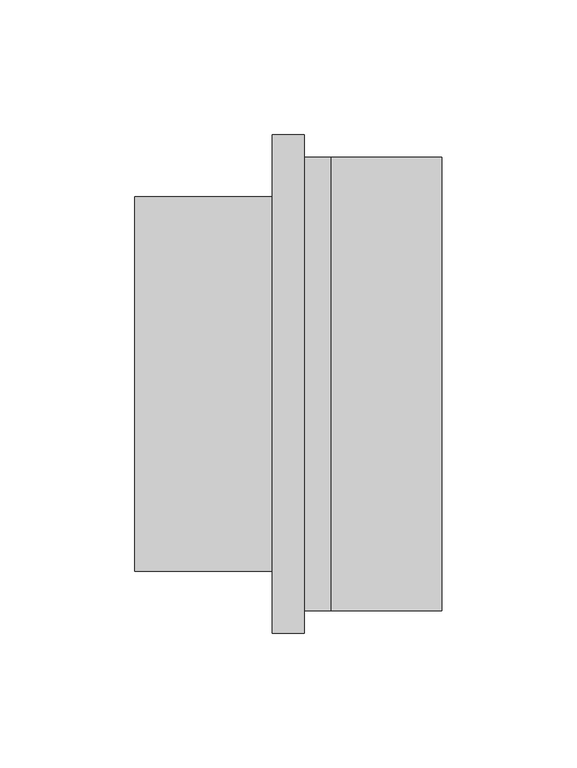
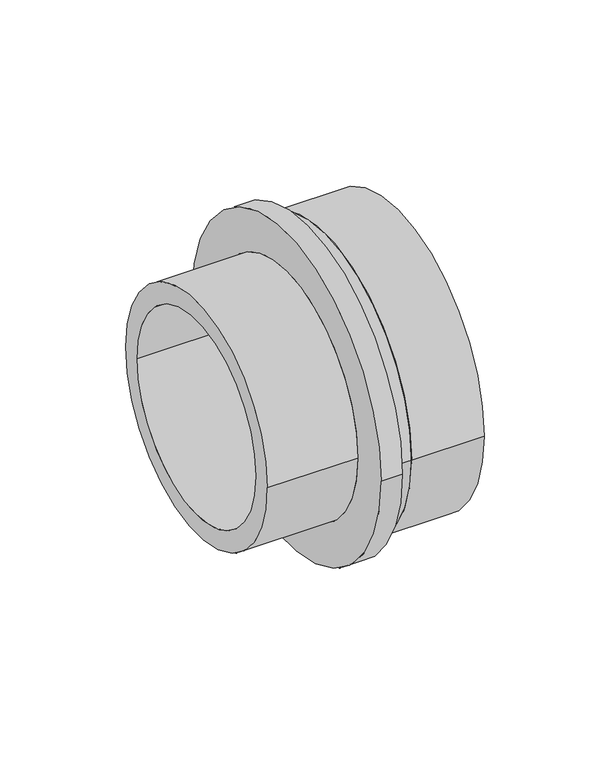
"""IFC4 building model written with IfcOpenShell, lengths in millimetres: pipe fitting geometry, Adapter with welding end : A welding RX."""

from ifc_helpers import new_model, si_unit, point, frame, origin, origin_2d, place, context, project, spatial, polyline, circle_curve, trimmed, segment, composite_curve, outline, extrude, source, transform, mapped, element, save
from ifc_brep_helpers import plane_surface, cylinder_surface, revolved_surface, advanced_brep


def pipe_fitting_d056a93d(model_context):
    return source(origin(), model_context, "Body", "SolidModel", [
        extrude(outline(composite_curve([segment(trimmed(circle_curve(origin_2d(), 84.2), [point((-84.2, 0.0))], [point((84.2, 0.0))], False, "CARTESIAN"), True, "CONTINUOUS"), segment(trimmed(circle_curve(origin_2d(), 84.2), [point((84.2, 0.0))], [point((-84.2, 0.0))], False, "CARTESIAN"), True, "CONTINUOUS")], self_intersect=False), holes=[composite_curve([segment(trimmed(circle_curve(origin_2d(), 80.05), [point((80.05, 0.0))], [point((-80.05, 0.0))], True, "CARTESIAN"), True, "CONTINUOUS"), segment(trimmed(circle_curve(origin_2d(), 80.05), [point((-80.05, 0.0))], [point((80.05, 0.0))], True, "CARTESIAN"), True, "CONTINUOUS")], self_intersect=False)]), frame((0.0, 0.0, 0.0), z_axis=(1.0, 0.0, 0.0), x_axis=(0.0, 1.0, 0.0)), (0.0, 0.0, 1.0), 41.0),
        advanced_brep(
        [(0.0, 84.2, 0.0), (0.0, -84.2, 0.0), (-10.0, -84.2, 0.0), (-10.0, 84.2, 0.0), (-10.0, 80.05, 0.0), (-10.0, -80.05, 0.0), (0.0, -80.05, 0.0), (0.0, 80.05, 0.0), (-73.0, 58.0, 0.0), (-73.0, -58.0, 0.0), (-10.0, -58.0, 0.0), (-10.0, 58.0, 0.0), (-22.0, 69.5, 0.0), (-22.0, -69.5, 0.0), (-73.0, -69.5, 0.0), (-73.0, 69.5, 0.0), (-10.0, 92.5, 0.0), (-10.0, -92.5, 0.0), (-22.0, -92.5, 0.0), (-22.0, 92.5, 0.0)],
        [
            (0, 1, circle_curve(frame((0.0, 0.0, 0.0), z_axis=(-1.0, 0.0, 0.0), x_axis=(0.0, -1.0, 0.0)), 84.2)),
            (1, 2),
            (2, 3, circle_curve(frame((-10.0, 0.0, 0.0), z_axis=(1.0, 0.0, 0.0), x_axis=(0.0, -1.0, 0.0)), 84.2)),
            (3, 0),
            (4, 5, circle_curve(frame((-10.0, 0.0, 0.0), z_axis=(-1.0, 0.0, 0.0), x_axis=(0.0, -1.0, 0.0)), 80.05)),
            (5, 6),
            (6, 7, circle_curve(frame((0.0, 0.0, 0.0), z_axis=(1.0, 0.0, 0.0), x_axis=(0.0, -1.0, 0.0)), 80.05)),
            (7, 4),
            (8, 9, circle_curve(frame((-73.0, 0.0, 0.0), z_axis=(-1.0, 0.0, 0.0), x_axis=(0.0, -1.0, 0.0)), 58.0)),
            (9, 10),
            (10, 11, circle_curve(frame((-10.0, 0.0, 0.0), z_axis=(1.0, 0.0, 0.0), x_axis=(0.0, -1.0, 0.0)), 58.0)),
            (11, 8),
            (12, 13, circle_curve(frame((-22.0, 0.0, 0.0), z_axis=(-1.0, 0.0, 0.0), x_axis=(0.0, -1.0, 0.0)), 69.5)),
            (13, 14),
            (14, 15, circle_curve(frame((-73.0, 0.0, 0.0), z_axis=(1.0, 0.0, 0.0), x_axis=(0.0, -1.0, 0.0)), 69.5)),
            (15, 12),
            (16, 17, circle_curve(frame((-10.0, 0.0, 0.0), z_axis=(-1.0, 0.0, 0.0), x_axis=(0.0, -1.0, 0.0)), 92.5)),
            (17, 18),
            (18, 19, circle_curve(frame((-22.0, 0.0, 0.0), z_axis=(1.0, 0.0, 0.0), x_axis=(0.0, -1.0, 0.0)), 92.5)),
            (19, 16),
            (16, 17, circle_curve(frame((-10.0, 0.0, 0.0), z_axis=(1.0, 0.0, 0.0), x_axis=(0.0, 1.0, 0.0)), 92.5)),
            (2, 3, circle_curve(frame((-10.0, 0.0, 0.0), z_axis=(-1.0, 0.0, 0.0), x_axis=(0.0, 1.0, 0.0)), 84.2)),
            (1, 0, circle_curve(frame((0.0, 0.0, 0.0), z_axis=(-1.0, 0.0, 0.0), x_axis=(0.0, 1.0, 0.0)), 84.2)),
            (6, 7, circle_curve(frame((0.0, 0.0, 0.0), z_axis=(-1.0, 0.0, 0.0), x_axis=(0.0, 1.0, 0.0)), 80.05)),
            (5, 4, circle_curve(frame((-10.0, 0.0, 0.0), z_axis=(-1.0, 0.0, 0.0), x_axis=(0.0, 1.0, 0.0)), 80.05)),
            (10, 11, circle_curve(frame((-10.0, 0.0, 0.0), z_axis=(-1.0, 0.0, 0.0), x_axis=(0.0, 1.0, 0.0)), 58.0)),
            (9, 8, circle_curve(frame((-73.0, 0.0, 0.0), z_axis=(-1.0, 0.0, 0.0), x_axis=(0.0, 1.0, 0.0)), 58.0)),
            (14, 15, circle_curve(frame((-73.0, 0.0, 0.0), z_axis=(-1.0, 0.0, 0.0), x_axis=(0.0, 1.0, 0.0)), 69.5)),
            (13, 12, circle_curve(frame((-22.0, 0.0, 0.0), z_axis=(-1.0, 0.0, 0.0), x_axis=(0.0, 1.0, 0.0)), 69.5)),
            (18, 19, circle_curve(frame((-22.0, 0.0, 0.0), z_axis=(-1.0, 0.0, 0.0), x_axis=(0.0, 1.0, 0.0)), 92.5)),
        ],
        [
            cylinder_surface(frame((0.0, 0.0, 0.0), z_axis=(1.0, 0.0, 0.0), x_axis=(0.0, -1.0, 0.0)), 84.2),
            revolved_surface(polyline([(0.0, -80.05, 0.0), (-10.0, -80.05, 0.0)]), (0.0, 0.0, 0.0), (1.0, 0.0, 0.0)),
            revolved_surface(polyline([(-10.0, -58.0, 0.0), (-73.0, -58.0, 0.0)]), (0.0, 0.0, 0.0), (1.0, 0.0, 0.0)),
            cylinder_surface(frame((0.0, 0.0, 0.0), z_axis=(1.0, 0.0, 0.0), x_axis=(0.0, -1.0, 0.0)), 69.5),
            cylinder_surface(frame((0.0, 0.0, 0.0), z_axis=(1.0, 0.0, 0.0), x_axis=(0.0, -1.0, 0.0)), 92.5),
            plane_surface(frame((-10.0, 0.0, 0.0), z_axis=(1.0, 0.0, 0.0), x_axis=(0.0, 1.0, 0.0))),
            cylinder_surface(frame((0.0, 0.0, 0.0), z_axis=(1.0, 0.0, 0.0), x_axis=(0.0, 1.0, 0.0)), 84.2),
            plane_surface(frame((0.0, 0.0, 0.0), z_axis=(1.0, 0.0, 0.0), x_axis=(0.0, 1.0, 0.0))),
            revolved_surface(polyline([(0.0, 80.05, 0.0), (-10.0, 80.05, 0.0)]), (0.0, 0.0, 0.0), (1.0, 0.0, 0.0)),
            revolved_surface(polyline([(-10.0, 58.0, 0.0), (-73.0, 58.0, 0.0)]), (0.0, 0.0, 0.0), (1.0, 0.0, 0.0)),
            plane_surface(frame((-73.0, 0.0, 0.0), z_axis=(-1.0, 0.0, 0.0), x_axis=(0.0, 1.0, 0.0))),
            cylinder_surface(frame((0.0, 0.0, 0.0), z_axis=(1.0, 0.0, 0.0), x_axis=(0.0, 1.0, 0.0)), 69.5),
            plane_surface(frame((-22.0, 0.0, 0.0), z_axis=(-1.0, 0.0, 0.0), x_axis=(0.0, 1.0, 0.0))),
            cylinder_surface(frame((0.0, 0.0, 0.0), z_axis=(1.0, 0.0, 0.0), x_axis=(0.0, 1.0, 0.0)), 92.5),
        ],
        [
            (0, [[1, 2, 3, 4]]),
            (1, [[5, 6, 7, 8]]),
            (2, [[9, 10, 11, 12]]),
            (3, [[13, 14, 15, 16]]),
            (4, [[17, 18, 19, 20]]),
            (5, [[21, -17], [22, -3]]),
            (6, [[23, -4, -22, -2]]),
            (7, [[-23, -1], [24, -7]]),
            (8, [[25, -8, -24, -6]]),
            (5, [[-25, -5], [26, -11]]),
            (9, [[27, -12, -26, -10]]),
            (10, [[28, -15], [-27, -9]]),
            (11, [[29, -16, -28, -14]]),
            (12, [[30, -19], [-29, -13]]),
            (13, [[-21, -20, -30, -18]]),
        ],
    ),
    ])


if __name__ == "__main__":
    model = new_model("IFC4")
    model_context = context("Model", 3, world=origin())
    ifc_project = project(units=[si_unit("LENGTHUNIT", "METRE", prefix="MILLI")], contexts=[model_context])
    site = spatial("IfcSite", under=ifc_project)
    building = spatial("IfcBuilding", under=site)
    placement = place(None, origin())
    pipe_fitting_shape = pipe_fitting_d056a93d(model_context)
    element("IfcPipeFitting", 1, ObjectType="Adapter with welding end : A welding RX", at=placement, inside=building, context=model_context, shape_type="MappedRepresentation", body=[
        mapped(pipe_fitting_shape, transform((0.0, 0.0, 0.0), x_axis=(1.0, 0.0, 0.0), y_axis=(0.0, 1.0, 0.0), z_axis=(0.0, 0.0, 1.0))),
    ])
    save(model, "model.ifc")
